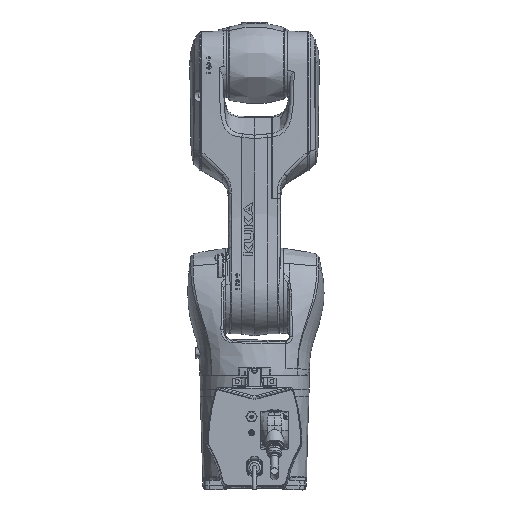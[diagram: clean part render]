
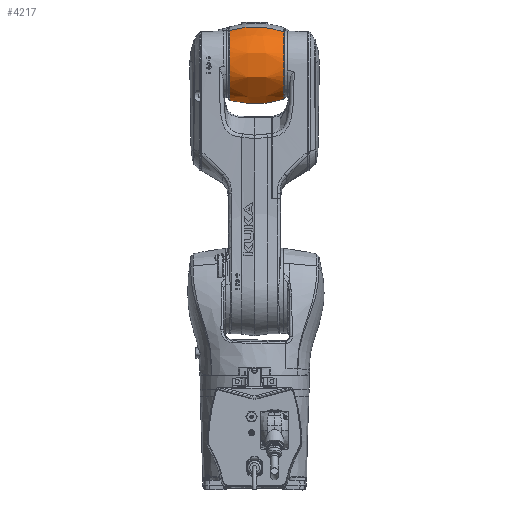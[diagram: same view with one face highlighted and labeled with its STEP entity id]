
A CAD part, left-side view. The second image highlights one B-rep face of the part: STEP entity #4217.
In plain terms, the highlighted free-form (B-spline) face has degree [3, 3] with [4, 4] control points.
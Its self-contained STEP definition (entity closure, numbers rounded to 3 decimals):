
#2296=(
BOUNDED_SURFACE()
B_SPLINE_SURFACE(3,3,((#101704,#101705,#101706,#101707),(#101708,#101709,
#101710,#101711),(#101712,#101713,#101714,#101715),(#101716,#101717,#101718,
#101719)),.UNSPECIFIED.,.F.,.F.,.F.)
B_SPLINE_SURFACE_WITH_KNOTS((4,4),(4,4),(0.,1.),(0.,1.),.UNSPECIFIED.)
GEOMETRIC_REPRESENTATION_ITEM()
RATIONAL_B_SPLINE_SURFACE(((1.,0.341,0.341,1.),
(0.97,0.331,0.331,0.97),
(0.97,0.331,0.331,0.97),
(1.,0.341,0.341,1.)))
REPRESENTATION_ITEM('')
SURFACE()
);
#4217=ADVANCED_FACE('',(#6539),#2296,.T.);
#6539=FACE_OUTER_BOUND('',#8550,.T.);
#8550=EDGE_LOOP('',(#14976,#14977,#14978,#14979,#14980,#14981,#14982,#14983));
#14976=ORIENTED_EDGE('',*,*,#25815,.F.);
#14977=ORIENTED_EDGE('',*,*,#25840,.T.);
#14978=ORIENTED_EDGE('',*,*,#25841,.T.);
#14979=ORIENTED_EDGE('',*,*,#25842,.T.);
#14980=ORIENTED_EDGE('',*,*,#25820,.F.);
#14981=ORIENTED_EDGE('',*,*,#25843,.T.);
#14982=ORIENTED_EDGE('',*,*,#25844,.T.);
#14983=ORIENTED_EDGE('',*,*,#25845,.T.);
#21580=VERTEX_POINT('',#100249);
#21581=VERTEX_POINT('',#100261);
#21584=VERTEX_POINT('',#100728);
#21585=VERTEX_POINT('',#100740);
#21595=VERTEX_POINT('',#101686);
#21596=VERTEX_POINT('',#101688);
#21597=VERTEX_POINT('',#101697);
#21598=VERTEX_POINT('',#101699);
#25815=EDGE_CURVE('',#21580,#21581,#30033,.T.);
#25820=EDGE_CURVE('',#21584,#21585,#30038,.T.);
#25840=EDGE_CURVE('',#21580,#21595,#30051,.T.);
#25841=EDGE_CURVE('',#21595,#21596,#31238,.T.);
#25842=EDGE_CURVE('',#21596,#21585,#30052,.T.);
#25843=EDGE_CURVE('',#21584,#21597,#30053,.T.);
#25844=EDGE_CURVE('',#21597,#21598,#31239,.T.);
#25845=EDGE_CURVE('',#21598,#21581,#30054,.T.);
#30033=B_SPLINE_CURVE_WITH_KNOTS('',3,(#100250,#100251,#100252,#100253,
#100254,#100255,#100256,#100257,#100258,#100259,#100260),.UNSPECIFIED.,
 .F.,.F.,(4,1,1,1,1,1,1,1,4),(0.,0.113,0.243,0.373,
0.502,0.632,0.762,0.891,
1.),.UNSPECIFIED.);
#30038=B_SPLINE_CURVE_WITH_KNOTS('',3,(#100729,#100730,#100731,#100732,
#100733,#100734,#100735,#100736,#100737,#100738,#100739),.UNSPECIFIED.,
 .F.,.F.,(4,1,1,1,1,1,1,1,4),(0.,0.109,0.238,0.368,
0.498,0.627,0.757,0.887,
1.),.UNSPECIFIED.);
#30051=B_SPLINE_CURVE_WITH_KNOTS('',3,(#101682,#101683,#101684,#101685),
 .UNSPECIFIED.,.F.,.F.,(4,4),(0.,1.),.UNSPECIFIED.);
#30052=B_SPLINE_CURVE_WITH_KNOTS('',3,(#101689,#101690,#101691,#101692),
 .UNSPECIFIED.,.F.,.F.,(4,4),(0.,1.),.UNSPECIFIED.);
#30053=B_SPLINE_CURVE_WITH_KNOTS('',3,(#101693,#101694,#101695,#101696),
 .UNSPECIFIED.,.F.,.F.,(4,4),(0.,1.),.UNSPECIFIED.);
#30054=B_SPLINE_CURVE_WITH_KNOTS('',3,(#101700,#101701,#101702,#101703),
 .UNSPECIFIED.,.F.,.F.,(4,4),(0.,1.),.UNSPECIFIED.);
#31238=CIRCLE('',#35692,70.597);
#31239=CIRCLE('',#35693,73.135);
#35692=AXIS2_PLACEMENT_3D('',#101687,#39473,#39474);
#35693=AXIS2_PLACEMENT_3D('',#101698,#39475,#39476);
#39473=DIRECTION('',(0.,1.,0.));
#39474=DIRECTION('',(-1.,0.,0.));
#39475=DIRECTION('',(0.,-1.,0.));
#39476=DIRECTION('',(0.,0.,-1.));
#100249=CARTESIAN_POINT('',(44.867,-58.229,787.256));
#100250=CARTESIAN_POINT('',(44.867,-58.229,787.256));
#100251=CARTESIAN_POINT('',(45.556,-54.081,786.025));
#100252=CARTESIAN_POINT('',(46.887,-45.087,783.677));
#100253=CARTESIAN_POINT('',(48.41,-31.099,781.047));
#100254=CARTESIAN_POINT('',(49.387,-16.481,779.378));
#100255=CARTESIAN_POINT('',(49.761,-2.039,778.747));
#100256=CARTESIAN_POINT('',(49.557,12.023,779.091));
#100257=CARTESIAN_POINT('',(48.827,25.703,780.334));
#100258=CARTESIAN_POINT('',(47.668,38.32,782.324));
#100259=CARTESIAN_POINT('',(46.658,46.316,784.085));
#100260=CARTESIAN_POINT('',(46.146,49.93,784.989));
#100261=CARTESIAN_POINT('',(46.146,49.93,784.989));
#100728=CARTESIAN_POINT('',(-3.047,49.93,922.543));
#100729=CARTESIAN_POINT('',(-3.047,49.93,922.543));
#100730=CARTESIAN_POINT('',(-3.223,46.316,923.567));
#100731=CARTESIAN_POINT('',(-3.559,38.32,925.57));
#100732=CARTESIAN_POINT('',(-3.925,25.703,927.842));
#100733=CARTESIAN_POINT('',(-4.149,12.023,929.267));
#100734=CARTESIAN_POINT('',(-4.209,-2.039,929.662));
#100735=CARTESIAN_POINT('',(-4.098,-16.481,928.937));
#100736=CARTESIAN_POINT('',(-3.796,-31.099,927.027));
#100737=CARTESIAN_POINT('',(-3.305,-45.087,924.028));
#100738=CARTESIAN_POINT('',(-2.845,-54.081,921.369));
#100739=CARTESIAN_POINT('',(-2.597,-58.229,919.98));
#100740=CARTESIAN_POINT('',(-2.597,-58.229,919.98));
#101682=CARTESIAN_POINT('',(44.867,-58.229,787.256));
#101683=CARTESIAN_POINT('',(44.685,-58.229,787.202));
#101684=CARTESIAN_POINT('',(44.502,-58.229,787.15));
#101685=CARTESIAN_POINT('',(44.319,-58.229,787.097));
#101686=CARTESIAN_POINT('',(44.319,-58.229,787.097));
#101687=CARTESIAN_POINT('',(25.,-58.229,855.));
#101688=CARTESIAN_POINT('',(-3.122,-58.229,919.754));
#101689=CARTESIAN_POINT('',(-3.122,-58.229,919.754));
#101690=CARTESIAN_POINT('',(-2.948,-58.229,919.83));
#101691=CARTESIAN_POINT('',(-2.773,-58.229,919.905));
#101692=CARTESIAN_POINT('',(-2.597,-58.229,919.98));
#101693=CARTESIAN_POINT('',(-3.047,49.93,922.543));
#101694=CARTESIAN_POINT('',(-3.242,49.93,922.462));
#101695=CARTESIAN_POINT('',(-3.437,49.93,922.38));
#101696=CARTESIAN_POINT('',(-3.631,49.93,922.297));
#101697=CARTESIAN_POINT('',(-3.631,49.93,922.297));
#101698=CARTESIAN_POINT('',(25.,49.93,855.));
#101699=CARTESIAN_POINT('',(45.538,49.93,784.808));
#101700=CARTESIAN_POINT('',(45.538,49.93,784.808));
#101701=CARTESIAN_POINT('',(45.741,49.93,784.868));
#101702=CARTESIAN_POINT('',(45.943,49.93,784.928));
#101703=CARTESIAN_POINT('',(46.146,49.93,784.989));
#101704=CARTESIAN_POINT('',(48.8,50.564,786.036));
#101705=CARTESIAN_POINT('',(-86.116,50.564,739.475));
#101706=CARTESIAN_POINT('',(-134.176,50.564,873.864));
#101707=CARTESIAN_POINT('',(-0.33,50.564,923.417));
#101708=CARTESIAN_POINT('',(52.153,14.391,776.32));
#101709=CARTESIAN_POINT('',(-101.77,14.391,723.2));
#101710=CARTESIAN_POINT('',(-156.601,14.391,876.522));
#101711=CARTESIAN_POINT('',(-3.899,14.391,933.056));
#101712=CARTESIAN_POINT('',(51.865,-23.203,777.153));
#101713=CARTESIAN_POINT('',(-100.426,-23.203,724.596));
#101714=CARTESIAN_POINT('',(-154.676,-23.203,876.294));
#101715=CARTESIAN_POINT('',(-3.592,-23.203,932.229));
#101716=CARTESIAN_POINT('',(47.963,-58.854,788.462));
#101717=CARTESIAN_POINT('',(-82.206,-58.854,743.54));
#101718=CARTESIAN_POINT('',(-128.575,-58.854,873.2));
#101719=CARTESIAN_POINT('',(0.561,-58.854,921.01));
